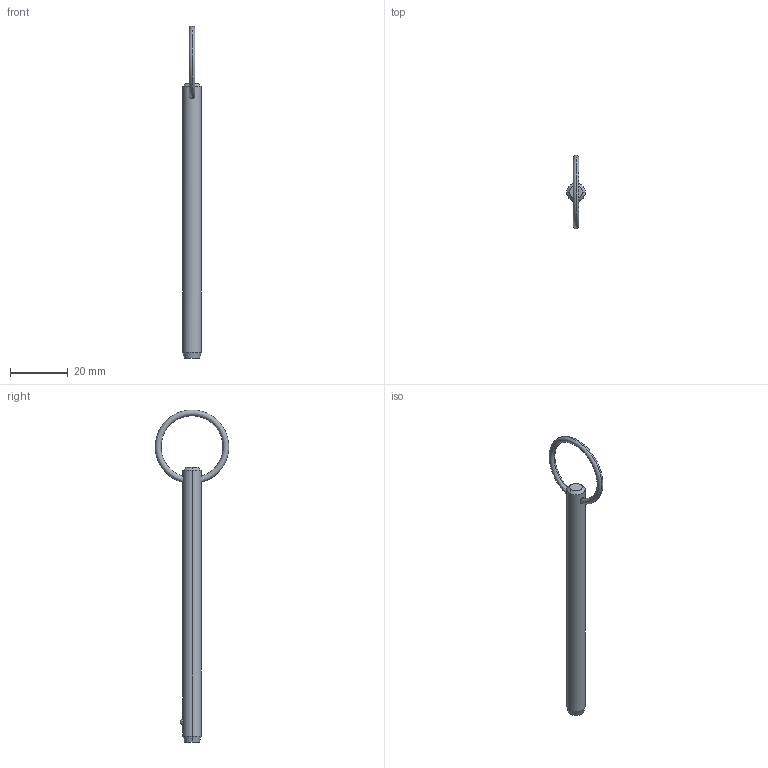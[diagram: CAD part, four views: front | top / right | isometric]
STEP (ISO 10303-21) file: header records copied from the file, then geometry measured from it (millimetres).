
FILE_DESCRIPTION (( 'STEP AP203' ), '1' );
FILE_NAME ('P1250.025-320.step', '2019-07-29T19:44:56', ( '' ), ( '' ), 'SwSTEP 2.0', 'SolidWorks 2017', '' );
FILE_SCHEMA (( 'CONFIG_CONTROL_DESIGN' ));
Length unit declared in the file: millimetre
Products named in the file (1): P1250.025-320
Bounding box: 6.35 x 25.38 x 114.62 mm (x, y, z)
Volume: 3195.9 mm3; surface area: 2348.6 mm2
Topology: 1 solids, 1 shells, 12 faces, 28 edges, 17 vertices
Faces by surface type: cone 4, torus 2, sphere 2, cylinder 2, plane 2
Entity records: 481 total; most frequent: CARTESIAN_POINT 148, DIRECTION 56, ORIENTED_EDGE 48, AXIS2_PLACEMENT_3D 25, EDGE_CURVE 24, EDGE_LOOP 15, VERTEX_POINT 15, FACE_OUTER_BOUND 12
